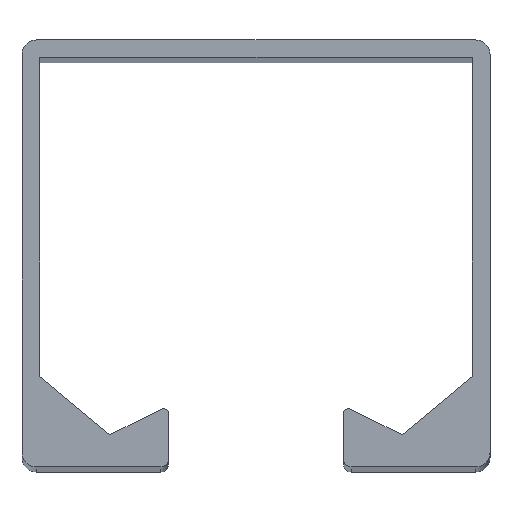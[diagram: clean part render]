
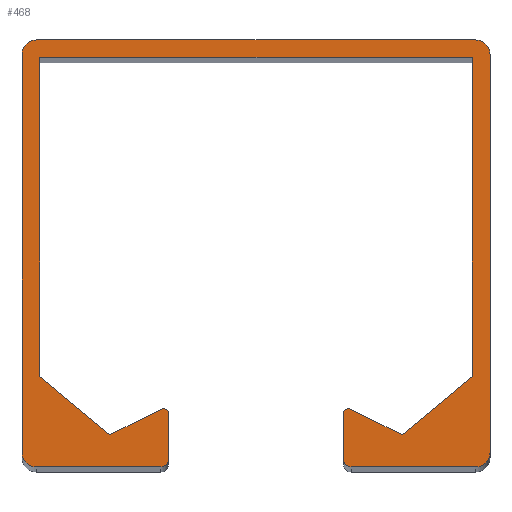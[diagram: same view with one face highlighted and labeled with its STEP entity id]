
A CAD part, top view. The second image highlights one B-rep face of the part: STEP entity #468.
In plain terms, the highlighted planar face has unit normal (0, 0, 1).
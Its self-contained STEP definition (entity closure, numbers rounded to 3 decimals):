
#30=PLANE('',#510);
#54=FACE_OUTER_BOUND('',#78,.T.);
#78=EDGE_LOOP('',(#415,#416,#417,#418,#419,#420,#421,#422,#423,#424,#425,
#426,#427,#428,#429,#430,#431,#432,#433,#434,#435,#436));
#82=LINE('',#657,#132);
#86=LINE('',#669,#136);
#90=LINE('',#681,#140);
#94=LINE('',#693,#144);
#97=LINE('',#699,#147);
#100=LINE('',#705,#150);
#103=LINE('',#711,#153);
#106=LINE('',#717,#156);
#109=LINE('',#723,#159);
#112=LINE('',#729,#162);
#116=LINE('',#741,#166);
#120=LINE('',#753,#170);
#124=LINE('',#765,#174);
#128=LINE('',#775,#178);
#132=VECTOR('',#524,27.2);
#136=VECTOR('',#536,8.5);
#140=VECTOR('',#548,3.2);
#144=VECTOR('',#560,4.028);
#147=VECTOR('',#565,6.248);
#150=VECTOR('',#570,21.8);
#153=VECTOR('',#575,29.6);
#156=VECTOR('',#580,21.8);
#159=VECTOR('',#585,6.248);
#162=VECTOR('',#590,4.028);
#166=VECTOR('',#602,3.2);
#170=VECTOR('',#614,8.5);
#174=VECTOR('',#626,27.2);
#178=VECTOR('',#638,30.);
#180=CIRCLE('',#473,1.);
#182=CIRCLE('',#477,1.);
#184=CIRCLE('',#481,0.5);
#186=CIRCLE('',#485,0.3);
#188=CIRCLE('',#495,0.3);
#190=CIRCLE('',#499,0.5);
#192=CIRCLE('',#503,1.);
#194=CIRCLE('',#507,1.);
#197=VERTEX_POINT('',#648);
#198=VERTEX_POINT('',#650);
#200=VERTEX_POINT('',#656);
#202=VERTEX_POINT('',#662);
#204=VERTEX_POINT('',#668);
#206=VERTEX_POINT('',#674);
#208=VERTEX_POINT('',#680);
#210=VERTEX_POINT('',#686);
#212=VERTEX_POINT('',#692);
#214=VERTEX_POINT('',#698);
#216=VERTEX_POINT('',#704);
#218=VERTEX_POINT('',#710);
#220=VERTEX_POINT('',#716);
#222=VERTEX_POINT('',#722);
#224=VERTEX_POINT('',#728);
#226=VERTEX_POINT('',#734);
#228=VERTEX_POINT('',#740);
#230=VERTEX_POINT('',#746);
#232=VERTEX_POINT('',#752);
#234=VERTEX_POINT('',#758);
#236=VERTEX_POINT('',#764);
#238=VERTEX_POINT('',#770);
#241=EDGE_CURVE('',#198,#197,#180,.T.);
#244=EDGE_CURVE('',#200,#198,#82,.T.);
#247=EDGE_CURVE('',#202,#200,#182,.T.);
#250=EDGE_CURVE('',#204,#202,#86,.T.);
#253=EDGE_CURVE('',#206,#204,#184,.T.);
#256=EDGE_CURVE('',#208,#206,#90,.T.);
#259=EDGE_CURVE('',#210,#208,#186,.T.);
#262=EDGE_CURVE('',#212,#210,#94,.T.);
#265=EDGE_CURVE('',#214,#212,#97,.T.);
#268=EDGE_CURVE('',#216,#214,#100,.T.);
#271=EDGE_CURVE('',#218,#216,#103,.T.);
#274=EDGE_CURVE('',#220,#218,#106,.T.);
#277=EDGE_CURVE('',#222,#220,#109,.T.);
#280=EDGE_CURVE('',#224,#222,#112,.T.);
#283=EDGE_CURVE('',#226,#224,#188,.T.);
#286=EDGE_CURVE('',#228,#226,#116,.T.);
#289=EDGE_CURVE('',#230,#228,#190,.T.);
#292=EDGE_CURVE('',#232,#230,#120,.T.);
#295=EDGE_CURVE('',#234,#232,#192,.T.);
#298=EDGE_CURVE('',#236,#234,#124,.T.);
#301=EDGE_CURVE('',#238,#236,#194,.T.);
#304=EDGE_CURVE('',#197,#238,#128,.T.);
#415=ORIENTED_EDGE('',*,*,#304,.T.);
#416=ORIENTED_EDGE('',*,*,#301,.T.);
#417=ORIENTED_EDGE('',*,*,#298,.T.);
#418=ORIENTED_EDGE('',*,*,#295,.T.);
#419=ORIENTED_EDGE('',*,*,#292,.T.);
#420=ORIENTED_EDGE('',*,*,#289,.T.);
#421=ORIENTED_EDGE('',*,*,#286,.T.);
#422=ORIENTED_EDGE('',*,*,#283,.T.);
#423=ORIENTED_EDGE('',*,*,#280,.T.);
#424=ORIENTED_EDGE('',*,*,#277,.T.);
#425=ORIENTED_EDGE('',*,*,#274,.T.);
#426=ORIENTED_EDGE('',*,*,#271,.T.);
#427=ORIENTED_EDGE('',*,*,#268,.T.);
#428=ORIENTED_EDGE('',*,*,#265,.T.);
#429=ORIENTED_EDGE('',*,*,#262,.T.);
#430=ORIENTED_EDGE('',*,*,#259,.T.);
#431=ORIENTED_EDGE('',*,*,#256,.T.);
#432=ORIENTED_EDGE('',*,*,#253,.T.);
#433=ORIENTED_EDGE('',*,*,#250,.T.);
#434=ORIENTED_EDGE('',*,*,#247,.T.);
#435=ORIENTED_EDGE('',*,*,#244,.T.);
#436=ORIENTED_EDGE('',*,*,#241,.T.);
#468=ADVANCED_FACE('',(#54),#30,.T.);
#473=AXIS2_PLACEMENT_3D('',#651,#518,#519);
#477=AXIS2_PLACEMENT_3D('',#663,#530,#531);
#481=AXIS2_PLACEMENT_3D('',#675,#542,#543);
#485=AXIS2_PLACEMENT_3D('',#687,#554,#555);
#495=AXIS2_PLACEMENT_3D('',#735,#596,#597);
#499=AXIS2_PLACEMENT_3D('',#747,#608,#609);
#503=AXIS2_PLACEMENT_3D('',#759,#620,#621);
#507=AXIS2_PLACEMENT_3D('',#771,#632,#633);
#510=AXIS2_PLACEMENT_3D('',#777,#641,#642);
#518=DIRECTION('center_axis',(0.,0.,1.));
#519=DIRECTION('ref_axis',(-1.,0.,0.));
#524=DIRECTION('',(0.,1.,0.));
#530=DIRECTION('center_axis',(0.,0.,1.));
#531=DIRECTION('ref_axis',(0.,1.,0.));
#536=DIRECTION('',(1.,0.,0.));
#542=DIRECTION('center_axis',(0.,0.,1.));
#543=DIRECTION('ref_axis',(1.,0.,0.));
#548=DIRECTION('',(0.,-1.,0.));
#554=DIRECTION('center_axis',(0.,0.,1.));
#555=DIRECTION('ref_axis',(-0.301,-0.954,0.));
#560=DIRECTION('',(-0.896,0.443,0.));
#565=DIRECTION('',(-0.768,-0.64,0.));
#570=DIRECTION('',(0.,-1.,0.));
#575=DIRECTION('',(1.,0.,0.));
#580=DIRECTION('',(0.,1.,0.));
#585=DIRECTION('',(-0.768,0.64,0.));
#590=DIRECTION('',(-0.896,-0.443,0.));
#596=DIRECTION('center_axis',(0.,0.,1.));
#597=DIRECTION('ref_axis',(-1.,0.,0.));
#602=DIRECTION('',(0.,1.,0.));
#608=DIRECTION('center_axis',(0.,0.,1.));
#609=DIRECTION('ref_axis',(0.,1.,0.));
#614=DIRECTION('',(1.,0.,0.));
#620=DIRECTION('center_axis',(0.,0.,1.));
#621=DIRECTION('ref_axis',(1.,0.,0.));
#626=DIRECTION('',(0.,-1.,0.));
#632=DIRECTION('center_axis',(0.,0.,1.));
#633=DIRECTION('ref_axis',(0.,-1.,0.));
#638=DIRECTION('',(-1.,0.,0.));
#641=DIRECTION('center_axis',(0.,0.,1.));
#642=DIRECTION('ref_axis',(1.,0.,0.));
#648=CARTESIAN_POINT('',(31.02,29.161,200.));
#650=CARTESIAN_POINT('',(32.02,28.161,200.));
#651=CARTESIAN_POINT('Origin',(31.02,28.161,200.));
#656=CARTESIAN_POINT('',(32.02,0.961,200.));
#657=CARTESIAN_POINT('',(32.02,28.161,200.));
#662=CARTESIAN_POINT('',(31.02,-0.039,200.));
#663=CARTESIAN_POINT('Origin',(31.02,0.961,200.));
#668=CARTESIAN_POINT('',(22.52,-0.039,200.));
#669=CARTESIAN_POINT('',(31.02,-0.039,200.));
#674=CARTESIAN_POINT('',(22.02,0.461,200.));
#675=CARTESIAN_POINT('Origin',(22.52,0.461,200.));
#680=CARTESIAN_POINT('',(22.02,3.661,200.));
#681=CARTESIAN_POINT('',(22.02,0.461,200.));
#686=CARTESIAN_POINT('',(22.41,3.947,200.));
#687=CARTESIAN_POINT('Origin',(22.32,3.661,200.));
#692=CARTESIAN_POINT('',(26.02,2.161,200.));
#693=CARTESIAN_POINT('',(22.41,3.947,200.));
#698=CARTESIAN_POINT('',(30.82,6.161,200.));
#699=CARTESIAN_POINT('',(26.02,2.161,200.));
#704=CARTESIAN_POINT('',(30.82,27.961,200.));
#705=CARTESIAN_POINT('',(30.82,6.161,200.));
#710=CARTESIAN_POINT('',(1.22,27.961,200.));
#711=CARTESIAN_POINT('',(30.82,27.961,200.));
#716=CARTESIAN_POINT('',(1.22,6.161,200.));
#717=CARTESIAN_POINT('',(1.22,27.961,200.));
#722=CARTESIAN_POINT('',(6.02,2.161,200.));
#723=CARTESIAN_POINT('',(1.22,6.161,200.));
#728=CARTESIAN_POINT('',(9.63,3.947,200.));
#729=CARTESIAN_POINT('',(6.02,2.161,200.));
#734=CARTESIAN_POINT('',(10.02,3.661,200.));
#735=CARTESIAN_POINT('Origin',(9.72,3.661,200.));
#740=CARTESIAN_POINT('',(10.02,0.461,200.));
#741=CARTESIAN_POINT('',(10.02,3.661,200.));
#746=CARTESIAN_POINT('',(9.52,-0.039,200.));
#747=CARTESIAN_POINT('Origin',(9.52,0.461,200.));
#752=CARTESIAN_POINT('',(1.02,-0.039,200.));
#753=CARTESIAN_POINT('',(9.52,-0.039,200.));
#758=CARTESIAN_POINT('',(0.02,0.961,200.));
#759=CARTESIAN_POINT('Origin',(1.02,0.961,200.));
#764=CARTESIAN_POINT('',(0.02,28.161,200.));
#765=CARTESIAN_POINT('',(0.02,0.961,200.));
#770=CARTESIAN_POINT('',(1.02,29.161,200.));
#771=CARTESIAN_POINT('Origin',(1.02,28.161,200.));
#775=CARTESIAN_POINT('',(1.02,29.161,200.));
#777=CARTESIAN_POINT('Origin',(16.02,16.322,200.));
